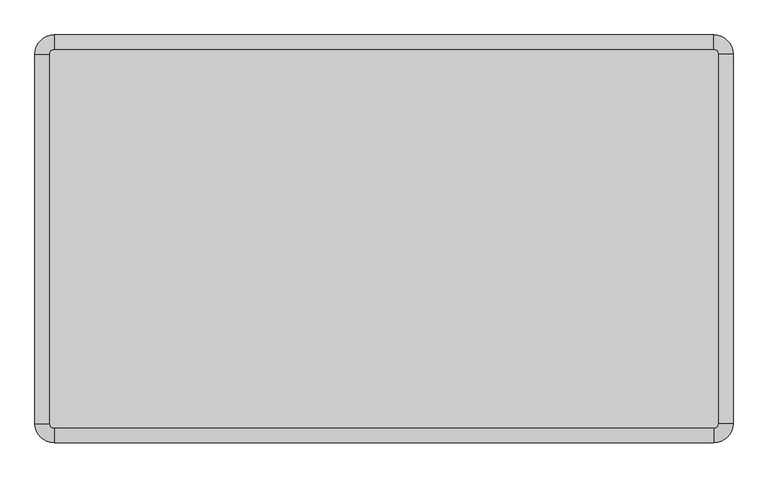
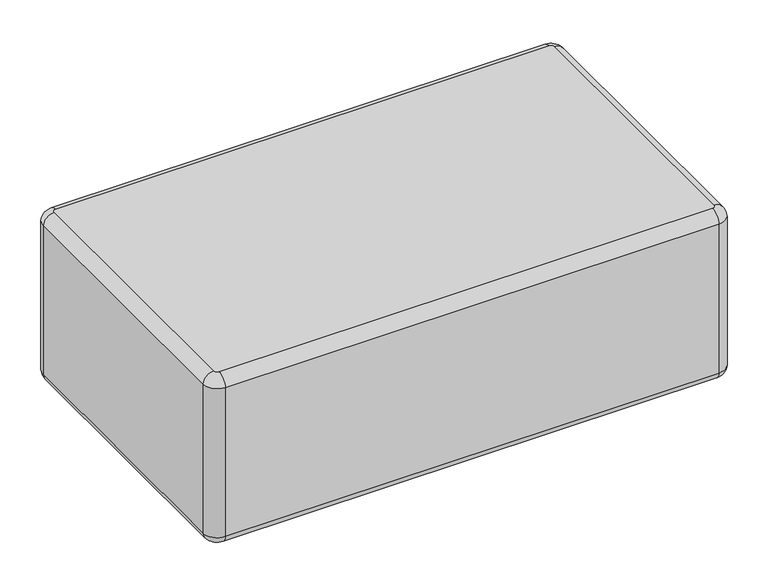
"""IFC4 building model written with IfcOpenShell, lengths in millimetres: furniture geometry, Blks_Mueb_Muuto_Sofá de 3 Plazas Softblocks : Único."""

from ifc_helpers import new_model, si_unit, point, frame, origin, place, context, project, spatial, circle_curve, ellipse_curve, trimmed, source, transform, mapped, element, save
from ifc_brep_helpers import plane_surface, cylinder_surface, revolved_surface, advanced_brep


def furniture_bd075ae4(model_context):
    return source(origin(), model_context, "Body", "AdvancedBrep", [
        advanced_brep(
        [(-899.951696, 118.1374224, 435.0), (-907.2029477, 110.8861706, 435.0), (-907.2029477, -511.3638294, 435.0), (-899.951696, -518.6150811, 435.0), (211.313362, -518.6150811, 435.0), (218.5646137, -511.3638294, 435.0), (218.5646137, 110.8861706, 435.0), (211.313362, 118.1374224, 435.0), (-907.2029477, 110.8861706, 35.0), (-899.951696, 118.1374224, 35.0), (211.313362, 118.1374224, 35.0), (218.5646137, 110.8861706, 35.0), (218.5646137, -511.3638294, 35.0), (211.313362, -518.6150811, 35.0), (-899.951696, -518.6150811, 35.0), (-907.2029477, -511.3638294, 35.0), (-932.10511, 110.8861706, 412.209596), (-899.951696, 143.0395846, 412.209596), (-899.951696, 150.8861706, 235.0000959), (-899.951696, 143.0395846, 57.790404), (-932.10511, 110.8861706, 57.790404), (-939.951696, 110.8861706, 235.0000949), (-932.10511, -511.3638294, 57.790404), (-939.951696, -511.3638294, 235.0), (-932.10511, -511.3638294, 412.209596), (-899.951696, -543.5172434, 412.209596), (-899.951696, -543.5172434, 57.790404), (-899.951696, -551.3638294, 235.0001085), (211.313362, -543.5172434, 57.790404), (211.313362, -551.3638294, 235.0), (211.313362, -543.5172434, 412.209596), (243.466776, -511.3638294, 412.209596), (243.466776, -511.3638294, 57.790404), (251.313362, -511.3638294, 235.0000796), (243.466776, 110.8861706, 57.790404), (251.313362, 110.8861706, 235.0), (243.466776, 110.8861706, 412.209596), (211.313362, 143.0395846, 412.209596), (211.313362, 143.0395846, 57.790404), (211.313362, 150.8861706, 235.0000669)],
        [
            (0, 1, circle_curve(frame((-899.951696, 110.8861706, 435.0), z_axis=(0.0, 0.0, 1.0), x_axis=(0.0, 1.0, 0.0)), 7.2512517)),
            (1, 2),
            (2, 3, circle_curve(frame((-899.951696, -511.3638294, 435.0), z_axis=(0.0, 0.0, 1.0), x_axis=(-1.0, 0.0, 0.0)), 7.2512517)),
            (3, 4),
            (4, 5, circle_curve(frame((211.313362, -511.3638294, 435.0), z_axis=(0.0, 0.0, 1.0), x_axis=(0.0, -1.0, 0.0)), 7.2512517)),
            (5, 6),
            (6, 7, circle_curve(frame((211.313362, 110.8861706, 435.0), z_axis=(0.0, 0.0, 1.0), x_axis=(1.0, 0.0, 0.0)), 7.2512517)),
            (7, 0),
            (8, 9, circle_curve(frame((-899.951696, 110.8861706, 35.0), z_axis=(0.0, 0.0, -1.0), x_axis=(0.0, 1.0, 0.0)), 7.2512517)),
            (9, 10),
            (10, 11, circle_curve(frame((211.313362, 110.8861706, 35.0), z_axis=(0.0, 0.0, -1.0), x_axis=(1.0, 0.0, 0.0)), 7.2512517)),
            (11, 12),
            (12, 13, circle_curve(frame((211.313362, -511.3638294, 35.0), z_axis=(0.0, 0.0, -1.0), x_axis=(0.0, -1.0, 0.0)), 7.2512517)),
            (13, 14),
            (14, 15, circle_curve(frame((-899.951696, -511.3638294, 35.0), z_axis=(0.0, 0.0, -1.0), x_axis=(-1.0, 0.0, 0.0)), 7.2512517)),
            (15, 8),
            (16, 17, circle_curve(frame((-899.951696, 110.8861706, 412.209596), z_axis=(0.0, 0.0, -1.0), x_axis=(0.0, 1.0, 0.0)), 32.153414)),
            (17, 18, circle_curve(frame((-899.951696, -1854.1138294, 235.0), z_axis=(-1.0, 0.0, 0.0), x_axis=(0.0, -1.0, 0.0)), 2005.0)),
            (18, 19, circle_curve(frame((-899.951696, -1854.1138294, 235.0), z_axis=(-1.0, 0.0, 0.0), x_axis=(0.0, -1.0, 0.0)), 2005.0)),
            (19, 20, circle_curve(frame((-899.951696, 110.8861706, 57.790404), z_axis=(0.0, 0.0, 1.0), x_axis=(0.0, 1.0, 0.0)), 32.153414)),
            (20, 21, circle_curve(frame((1065.048304, 110.8861706, 235.0), z_axis=(0.0, 1.0, 0.0), x_axis=(1.0, 0.0, 0.0)), 2005.0)),
            (21, 16, circle_curve(frame((1065.048304, 110.8861706, 235.0), z_axis=(0.0, 1.0, 0.0), x_axis=(1.0, 0.0, 0.0)), 2005.0)),
            (20, 22),
            (22, 23, circle_curve(frame((1065.048304, -511.3638294, 235.0), z_axis=(0.0, 1.0, 0.0), x_axis=(1.0, 0.0, 0.0)), 2005.0)),
            (23, 24, circle_curve(frame((1065.048304, -511.3638294, 235.0), z_axis=(0.0, 1.0, 0.0), x_axis=(1.0, 0.0, 0.0)), 2005.0)),
            (24, 16),
            (25, 24, circle_curve(frame((-899.951696, -511.3638294, 412.209596), z_axis=(0.0, 0.0, -1.0), x_axis=(-1.0, 0.0, 0.0)), 32.153414)),
            (22, 26, circle_curve(frame((-899.951696, -511.3638294, 57.790404), z_axis=(0.0, 0.0, 1.0), x_axis=(-1.0, 0.0, 0.0)), 32.153414)),
            (26, 27, circle_curve(frame((-899.951696, 1453.6361706, 235.0), z_axis=(-1.0, 0.0, 0.0), x_axis=(0.0, 1.0, 0.0)), 2005.0)),
            (27, 25, circle_curve(frame((-899.951696, 1453.6361706, 235.0), z_axis=(-1.0, 0.0, 0.0), x_axis=(0.0, 1.0, 0.0)), 2005.0)),
            (26, 28),
            (28, 29, circle_curve(frame((211.313362, 1453.6361706, 235.0), z_axis=(-1.0, 0.0, 0.0), x_axis=(0.0, 1.0, 0.0)), 2005.0)),
            (29, 30, circle_curve(frame((211.313362, 1453.6361706, 235.0), z_axis=(-1.0, 0.0, 0.0), x_axis=(0.0, 1.0, 0.0)), 2005.0)),
            (30, 25),
            (31, 30, circle_curve(frame((211.313362, -511.3638294, 412.209596), z_axis=(0.0, 0.0, -1.0), x_axis=(0.0, -1.0, 0.0)), 32.153414)),
            (28, 32, circle_curve(frame((211.313362, -511.3638294, 57.790404), z_axis=(0.0, 0.0, 1.0), x_axis=(0.0, -1.0, 0.0)), 32.153414)),
            (32, 33, circle_curve(frame((-1753.686638, -511.3638294, 235.0), z_axis=(0.0, -1.0, 0.0), x_axis=(-1.0, 0.0, 0.0)), 2005.0)),
            (33, 31, circle_curve(frame((-1753.686638, -511.3638294, 235.0), z_axis=(0.0, -1.0, 0.0), x_axis=(-1.0, 0.0, 0.0)), 2005.0)),
            (32, 34),
            (34, 35, circle_curve(frame((-1753.686638, 110.8861706, 235.0), z_axis=(0.0, -1.0, 0.0), x_axis=(-1.0, 0.0, 0.0)), 2005.0)),
            (35, 36, circle_curve(frame((-1753.686638, 110.8861706, 235.0), z_axis=(0.0, -1.0, 0.0), x_axis=(-1.0, 0.0, 0.0)), 2005.0)),
            (36, 31),
            (37, 36, circle_curve(frame((211.313362, 110.8861706, 412.209596), z_axis=(0.0, 0.0, -1.0), x_axis=(1.0, 0.0, 0.0)), 32.153414)),
            (34, 38, circle_curve(frame((211.313362, 110.8861706, 57.790404), z_axis=(0.0, 0.0, 1.0), x_axis=(1.0, 0.0, 0.0)), 32.153414)),
            (38, 39, circle_curve(frame((211.313362, -1854.1138294, 235.0), z_axis=(1.0, 0.0, 0.0), x_axis=(0.0, -1.0, 0.0)), 2005.0)),
            (39, 37, circle_curve(frame((211.313362, -1854.1138294, 235.0), z_axis=(1.0, 0.0, 0.0), x_axis=(0.0, -1.0, 0.0)), 2005.0)),
            (38, 19),
            (17, 37),
            (19, 9, circle_curve(frame((-899.951696, 118.1374224, 60.0), z_axis=(-1.0, 0.0, 0.0), x_axis=(0.0, -1.0, 0.0)), 25.0)),
            (8, 20, circle_curve(frame((-907.2029477, 110.8861706, 60.0), z_axis=(0.0, 1.0, 0.0), x_axis=(1.0, 0.0, 0.0)), 25.0)),
            (16, 1, circle_curve(frame((-907.2029477, 110.8861706, 410.0), z_axis=(0.0, 1.0, 0.0), x_axis=(1.0, 0.0, 0.0)), 25.0)),
            (0, 17, circle_curve(frame((-899.951696, 118.1374224, 410.0), z_axis=(-1.0, 0.0, 0.0), x_axis=(0.0, -1.0, 0.0)), 25.0)),
            (15, 22, circle_curve(frame((-907.2029477, -511.3638294, 60.0), z_axis=(0.0, 1.0, 0.0), x_axis=(1.0, 0.0, 0.0)), 25.0)),
            (24, 2, circle_curve(frame((-907.2029477, -511.3638294, 410.0), z_axis=(0.0, 1.0, 0.0), x_axis=(1.0, 0.0, 0.0)), 25.0)),
            (14, 26, circle_curve(frame((-899.951696, -518.6150811, 60.0), z_axis=(-1.0, 0.0, 0.0), x_axis=(0.0, 1.0, 0.0)), 25.0)),
            (25, 3, circle_curve(frame((-899.951696, -518.6150811, 410.0), z_axis=(-1.0, 0.0, 0.0), x_axis=(0.0, 1.0, 0.0)), 25.0)),
            (13, 28, circle_curve(frame((211.313362, -518.6150811, 60.0), z_axis=(-1.0, 0.0, 0.0), x_axis=(0.0, 1.0, 0.0)), 25.0)),
            (30, 4, circle_curve(frame((211.313362, -518.6150811, 410.0), z_axis=(-1.0, 0.0, 0.0), x_axis=(0.0, 1.0, 0.0)), 25.0)),
            (12, 32, circle_curve(frame((218.5646137, -511.3638294, 60.0), z_axis=(0.0, -1.0, 0.0), x_axis=(-1.0, 0.0, 0.0)), 25.0)),
            (31, 5, circle_curve(frame((218.5646137, -511.3638294, 410.0), z_axis=(0.0, -1.0, 0.0), x_axis=(-1.0, 0.0, 0.0)), 25.0)),
            (11, 34, circle_curve(frame((218.5646137, 110.8861706, 60.0), z_axis=(0.0, -1.0, 0.0), x_axis=(-1.0, 0.0, 0.0)), 25.0)),
            (36, 6, circle_curve(frame((218.5646137, 110.8861706, 410.0), z_axis=(0.0, -1.0, 0.0), x_axis=(-1.0, 0.0, 0.0)), 25.0)),
            (10, 38, circle_curve(frame((211.313362, 118.1374224, 60.0), z_axis=(1.0, 0.0, 0.0), x_axis=(0.0, -1.0, 0.0)), 25.0)),
            (37, 7, circle_curve(frame((211.313362, 118.1374224, 410.0), z_axis=(1.0, 0.0, 0.0), x_axis=(0.0, -1.0, 0.0)), 25.0)),
        ],
        [
            plane_surface(frame((-859.951696, -511.3638294, 435.0), z_axis=(0.0, 0.0, 1.0), x_axis=(0.0, 1.0, 0.0))),
            plane_surface(frame((-859.951696, -511.3638294, 35.0), z_axis=(0.0, 0.0, -1.0), x_axis=(0.0, -1.0, 0.0))),
            revolved_surface(trimmed(ellipse_curve(frame((-899.951696, -1854.1138294, 235.0), z_axis=(1.0, 0.0, 0.0), x_axis=(0.0, -1.0, 0.0)), 2005.0, 2005.0), [point((-899.951696, 143.0395846, 57.790404))], [point((-899.951696, 143.0395846, 412.209596))], True, "CARTESIAN"), (-899.951696, 110.8861706, 0.0), (0.0, 0.0, 1.0)),
            cylinder_surface(frame((1065.048304, 110.8861706, 235.0), z_axis=(0.0, -1.0, 0.0), x_axis=(1.0, 0.0, 0.0)), 2005.0),
            revolved_surface(trimmed(ellipse_curve(frame((1065.048304, -511.3638294, 235.0), z_axis=(0.0, 1.0, 0.0), x_axis=(1.0, 0.0, 0.0)), 2005.0, 2005.0), [point((-932.10511, -511.3638294, 57.790404))], [point((-932.10511, -511.3638294, 412.209596))], True, "CARTESIAN"), (-899.951696, -511.3638294, 0.0), (0.0, 0.0, 1.0)),
            cylinder_surface(frame((-899.951696, 1453.6361706, 235.0), z_axis=(1.0, 0.0, 0.0), x_axis=(0.0, 1.0, 0.0)), 2005.0),
            revolved_surface(trimmed(ellipse_curve(frame((211.313362, 1453.6361706, 235.0), z_axis=(-1.0, 0.0, 0.0), x_axis=(0.0, 1.0, 0.0)), 2005.0, 2005.0), [point((211.313362, -543.5172434, 57.790404))], [point((211.313362, -543.5172434, 412.209596))], True, "CARTESIAN"), (211.313362, -511.3638294, 0.0), (0.0, 0.0, 1.0)),
            cylinder_surface(frame((-1753.686638, -511.3638294, 235.0), z_axis=(0.0, 1.0, 0.0), x_axis=(-1.0, 0.0, 0.0)), 2005.0),
            revolved_surface(trimmed(ellipse_curve(frame((-1753.686638, 110.8861706, 235.0), z_axis=(0.0, -1.0, 0.0), x_axis=(-1.0, 0.0, 0.0)), 2005.0, 2005.0), [point((243.466776, 110.8861706, 57.790404))], [point((243.466776, 110.8861706, 412.209596))], True, "CARTESIAN"), (211.313362, 110.8861706, 0.0), (0.0, 0.0, 1.0)),
            cylinder_surface(frame((211.313362, -1854.1138294, 235.0), z_axis=(-1.0, 0.0, 0.0), x_axis=(0.0, -1.0, 0.0)), 2005.0),
            revolved_surface(trimmed(ellipse_curve(frame((-899.951696, 118.1374224, 60.0), z_axis=(1.0, 0.0, 0.0), x_axis=(0.0, -1.0, 0.0)), 25.0, 25.0), [point((-899.951696, 118.1374224, 35.0))], [point((-899.951696, 143.0395846, 57.790404))], True, "CARTESIAN"), (-899.951696, 110.8861706, 0.0), (0.0, 0.0, 1.0)),
            revolved_surface(trimmed(ellipse_curve(frame((-899.951696, 118.1374224, 410.0), z_axis=(1.0, 0.0, 0.0), x_axis=(0.0, -1.0, 0.0)), 25.0, 25.0), [point((-899.951696, 143.0395846, 412.209596))], [point((-899.951696, 118.1374224, 435.0))], True, "CARTESIAN"), (-899.951696, 110.8861706, 0.0), (0.0, 0.0, 1.0)),
            cylinder_surface(frame((-907.2029477, 110.8861706, 60.0), z_axis=(0.0, -1.0, 0.0), x_axis=(1.0, 0.0, 0.0)), 25.0),
            cylinder_surface(frame((-907.2029477, 110.8861706, 410.0), z_axis=(0.0, -1.0, 0.0), x_axis=(1.0, 0.0, 0.0)), 25.0),
            revolved_surface(trimmed(ellipse_curve(frame((-907.2029477, -511.3638294, 60.0), z_axis=(0.0, 1.0, 0.0), x_axis=(1.0, 0.0, 0.0)), 25.0, 25.0), [point((-907.2029477, -511.3638294, 35.0))], [point((-932.10511, -511.3638294, 57.790404))], True, "CARTESIAN"), (-899.951696, -511.3638294, 0.0), (0.0, 0.0, 1.0)),
            revolved_surface(trimmed(ellipse_curve(frame((-907.2029477, -511.3638294, 410.0), z_axis=(0.0, 1.0, 0.0), x_axis=(1.0, 0.0, 0.0)), 25.0, 25.0), [point((-932.10511, -511.3638294, 412.209596))], [point((-907.2029477, -511.3638294, 435.0))], True, "CARTESIAN"), (-899.951696, -511.3638294, 0.0), (0.0, 0.0, 1.0)),
            cylinder_surface(frame((-899.951696, -518.6150811, 60.0), z_axis=(1.0, 0.0, 0.0), x_axis=(0.0, 1.0, 0.0)), 25.0),
            cylinder_surface(frame((-899.951696, -518.6150811, 410.0), z_axis=(1.0, 0.0, 0.0), x_axis=(0.0, 1.0, 0.0)), 25.0),
            revolved_surface(trimmed(ellipse_curve(frame((211.313362, -518.6150811, 60.0), z_axis=(-1.0, 0.0, 0.0), x_axis=(0.0, 1.0, 0.0)), 25.0, 25.0), [point((211.313362, -518.6150811, 35.0))], [point((211.313362, -543.5172434, 57.790404))], True, "CARTESIAN"), (211.313362, -511.3638294, 0.0), (0.0, 0.0, 1.0)),
            revolved_surface(trimmed(ellipse_curve(frame((211.313362, -518.6150811, 410.0), z_axis=(-1.0, 0.0, 0.0), x_axis=(0.0, 1.0, 0.0)), 25.0, 25.0), [point((211.313362, -543.5172434, 412.209596))], [point((211.313362, -518.6150811, 435.0))], True, "CARTESIAN"), (211.313362, -511.3638294, 0.0), (0.0, 0.0, 1.0)),
            cylinder_surface(frame((218.5646137, -511.3638294, 60.0), z_axis=(0.0, 1.0, 0.0), x_axis=(-1.0, 0.0, 0.0)), 25.0),
            cylinder_surface(frame((218.5646137, -511.3638294, 410.0), z_axis=(0.0, 1.0, 0.0), x_axis=(-1.0, 0.0, 0.0)), 25.0),
            revolved_surface(trimmed(ellipse_curve(frame((218.5646137, 110.8861706, 60.0), z_axis=(0.0, -1.0, 0.0), x_axis=(-1.0, 0.0, 0.0)), 25.0, 25.0), [point((218.5646137, 110.8861706, 35.0))], [point((243.466776, 110.8861706, 57.790404))], True, "CARTESIAN"), (211.313362, 110.8861706, 0.0), (0.0, 0.0, 1.0)),
            revolved_surface(trimmed(ellipse_curve(frame((218.5646137, 110.8861706, 410.0), z_axis=(0.0, -1.0, 0.0), x_axis=(-1.0, 0.0, 0.0)), 25.0, 25.0), [point((243.466776, 110.8861706, 412.209596))], [point((218.5646137, 110.8861706, 435.0))], True, "CARTESIAN"), (211.313362, 110.8861706, 0.0), (0.0, 0.0, 1.0)),
            cylinder_surface(frame((211.313362, 118.1374224, 60.0), z_axis=(-1.0, 0.0, 0.0), x_axis=(0.0, -1.0, 0.0)), 25.0),
            cylinder_surface(frame((211.313362, 118.1374224, 410.0), z_axis=(-1.0, 0.0, 0.0), x_axis=(0.0, -1.0, 0.0)), 25.0),
        ],
        [
            (0, [[1, 2, 3, 4, 5, 6, 7, 8]]),
            (1, [[9, 10, 11, 12, 13, 14, 15, 16]]),
            (2, [[17, 18, 19, 20, 21, 22]]),
            (3, [[23, 24, 25, 26, -22, -21]]),
            (4, [[27, -25, -24, 28, 29, 30]]),
            (5, [[31, 32, 33, 34, -30, -29]]),
            (6, [[35, -33, -32, 36, 37, 38]]),
            (7, [[39, 40, 41, 42, -38, -37]]),
            (8, [[43, -41, -40, 44, 45, 46]]),
            (9, [[47, -19, -18, 48, -46, -45]]),
            (10, [[-20, 49, -9, 50]]),
            (11, [[-17, 51, -1, 52]]),
            (12, [[-23, -50, -16, 53]]),
            (13, [[-26, 54, -2, -51]]),
            (14, [[-28, -53, -15, 55]]),
            (15, [[-27, 56, -3, -54]]),
            (16, [[-31, -55, -14, 57]]),
            (17, [[-34, 58, -4, -56]]),
            (18, [[-36, -57, -13, 59]]),
            (19, [[-35, 60, -5, -58]]),
            (20, [[-39, -59, -12, 61]]),
            (21, [[-42, 62, -6, -60]]),
            (22, [[-44, -61, -11, 63]]),
            (23, [[-43, 64, -7, -62]]),
            (24, [[-47, -63, -10, -49]]),
            (25, [[-48, -52, -8, -64]]),
        ],
    ),
    ])


if __name__ == "__main__":
    model = new_model("IFC4")
    model_context = context("Model", 3, world=origin())
    ifc_project = project(units=[si_unit("LENGTHUNIT", "METRE", prefix="MILLI")], contexts=[model_context])
    site = spatial("IfcSite", under=ifc_project)
    building = spatial("IfcBuilding", under=site)
    placement = place(None, origin())
    furniture_shape = furniture_bd075ae4(model_context)
    element("IfcFurniture", 1, ObjectType="Blks_Mueb_Muuto_Sofá de 3 Plazas Softblocks : Único", at=placement, inside=building, context=model_context, shape_type="MappedRepresentation", body=[
        mapped(furniture_shape, transform((0.0, 0.0, 0.0), x_axis=(1.0, 0.0, 0.0), y_axis=(0.0, 1.0, 0.0), z_axis=(0.0, 0.0, 1.0))),
    ])
    save(model, "model.ifc")
